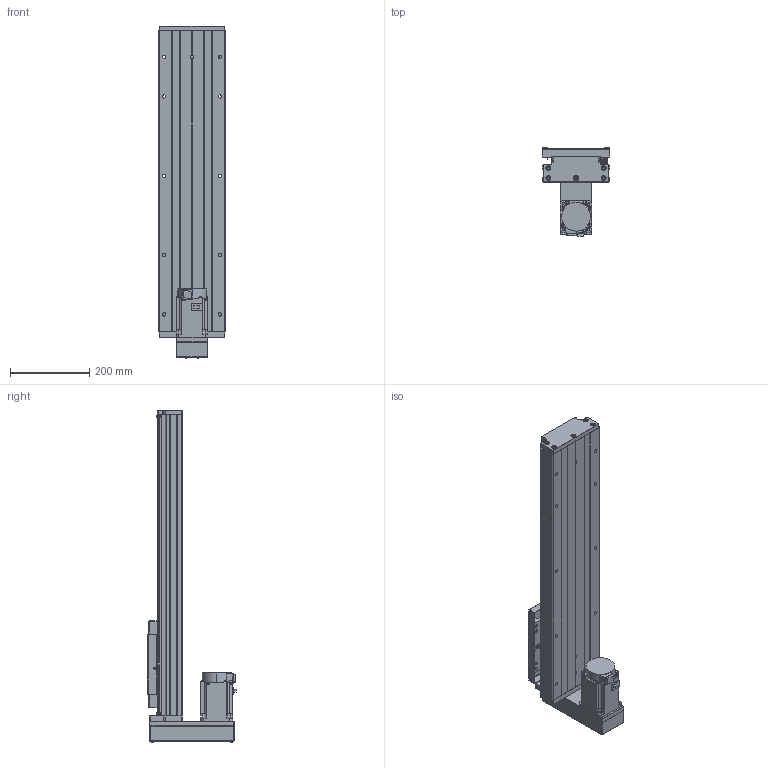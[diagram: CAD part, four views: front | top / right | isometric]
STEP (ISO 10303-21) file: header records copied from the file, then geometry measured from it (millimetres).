
FILE_DESCRIPTION (( 'STEP AP203' ), '1' );
FILE_NAME ('GTH17-500-BM-M75-C4.step', '2023-06-30T12:40:01', ( '微软用户' ), ( '微软中国' ), 'SwSTEP 2.0', 'SolidWorks 2020', '' );
FILE_SCHEMA (( 'CONFIG_CONTROL_DESIGN' ));
Length unit declared in the file: millimetre
Products named in the file (19): GBT 70.2-M3¡Á5_M3¡Á6; EE_SX911P_R; す晦芛蹟隊 M3℅5; GTH17-001_500; CTHA60-016; HG-KN73J-S100; GTH17-002_GTH17-002; GBT 70.1-M3℅5; GBT 70.2-M4¡Á45_M4¡Á35; GTH17-004; GBT77-2000 M3×3; GTH17-015-2_CTHA86-015-2; GTH17-005; GBT 70.1-M6¡Á20_M6¡Á20; GTH17-033; GB1155-6X6; GTH17-031; GTH17-500-BM-M75-C4; CTHA60-017
Assembly tree (58 placements, depth 2):
  GTH17-500-BM-M75-C4
    GTH17-001_500
    GTH17-002_GTH17-002
    GTH17-004
    GTH17-005
    GB1155-6X6  x2
    CTHA60-017  x3
    EE_SX911P_R  x3
    CTHA60-016  x2
    GBT 70.1-M3℅5  x6
    GBT77-2000 M3×3  x6
    GBT 70.1-M6¡Á20_M6¡Á20  x10
    GTH17-031
    GBT 70.2-M3¡Á5_M3¡Á6  x8
    す晦芛蹟隊 M3℅5  x6
    HG-KN73J-S100
    GBT 70.2-M4¡Á45_M4¡Á35  x4
    GTH17-015-2_CTHA86-015-2
    GTH17-033
Bounding box: 171 x 222.3 x 838.2 mm (x, y, z)
Volume: 7228228.2 mm3; surface area: 1056690.2 mm2
Topology: 61 solids, 61 shells, 2439 faces, 5821 edges, 3603 vertices
Faces by surface type: plane 1308, cylinder 658, cone 297, torus 124, sphere 32, bspline 20
Entity records: 44430 total; most frequent: CARTESIAN_POINT 10316, DIRECTION 6421, ORIENTED_EDGE 6354, EDGE_CURVE 3177, AXIS2_PLACEMENT_3D 2186, VECTOR 2049, LINE 2049, VERTEX_POINT 2015
